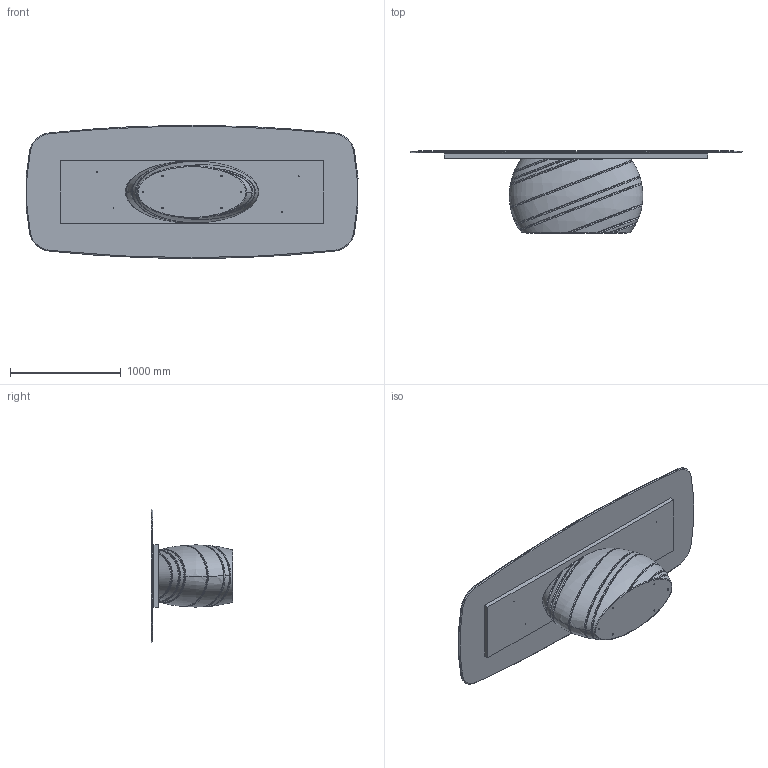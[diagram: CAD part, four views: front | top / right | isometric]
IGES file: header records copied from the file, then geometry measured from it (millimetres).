
Start section: SolidWorks IGES file using analytic representation for surfaces
Global section: file name: Y:\eforma\TECNICO\SOLIDWORKS\E-FORMA\1-TAVOLI\GIOVE\08 modelli 3D web\GI44C.IGS; native system: SolidWorks 2022; preprocessor: SolidWorks 2022; author: eforma.tech; date: 250422.161626; units: millimetre
Bounding box: 2991.72 x 738 x 1200 mm (x, y, z)
Volume: 423268211 mm3; surface area: 12464263.5 mm2
Topology: 3 solids, 3 shells, 162 faces, 391 edges, 250 vertices
Faces by surface type: revolution 78, bspline 53, plane 31
